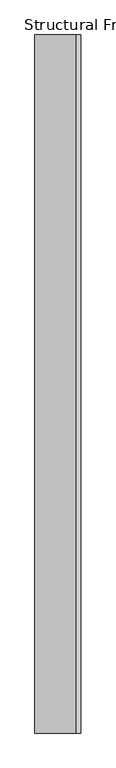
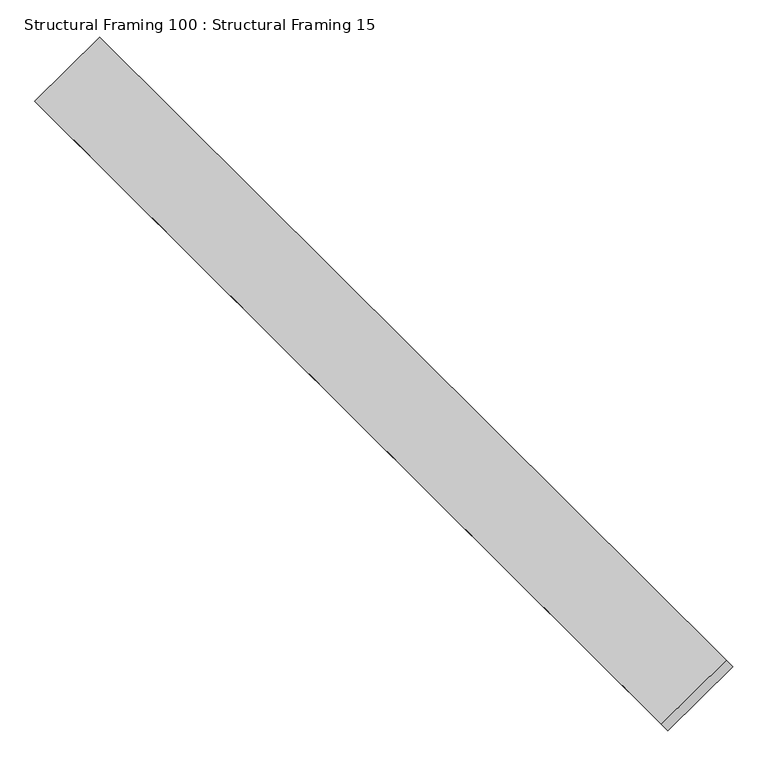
"""IFC4 building model written with IfcOpenShell, lengths in millimetres: beam geometry, Structural Framing 100 : Structural Framing 15."""

from ifc_helpers import new_model, si_unit, frame, origin, place, context, project, spatial, polyline, outline, extrude, source, transform, mapped, element, save


def structural_framing_100_structural_framing_15_5def26a6(model_context):
    return source(origin(), model_context, "Body", "SweptSolid", [
        extrude(outline(polyline([(0.0, -174.3446796), (0.0, 0.0), (2400.0, 0.0), (2400.0, -174.3446796), (0.0, -174.3446796)])), frame((1206.7789073, 3925.5508021, 2800.0), z_axis=(-0.5735764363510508, 0.0, 0.8191520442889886), x_axis=(0.0, -1.0, 0.0)), (0.0, 0.0, 1.0), 25.0),
    ])


if __name__ == "__main__":
    model = new_model("IFC4")
    model_context = context("Model", 3, world=origin())
    ifc_project = project(units=[si_unit("LENGTHUNIT", "METRE", prefix="MILLI")], contexts=[model_context])
    site = spatial("IfcSite", under=ifc_project)
    building = spatial("IfcBuilding", under=site)
    placement = place(None, origin())
    structural_framing_100_structural_framing_15_shape = structural_framing_100_structural_framing_15_5def26a6(model_context)
    element("IfcBeam", 1, ObjectType="Structural Framing 100 : Structural Framing 15", at=placement, inside=building, context=model_context, shape_type="MappedRepresentation", body=[
        mapped(structural_framing_100_structural_framing_15_shape, transform((0.0, 0.0, 0.0), x_axis=(1.0, 0.0, 0.0), y_axis=(0.0, 1.0, 0.0), z_axis=(0.0, 0.0, 1.0))),
    ])
    save(model, "model.ifc")
